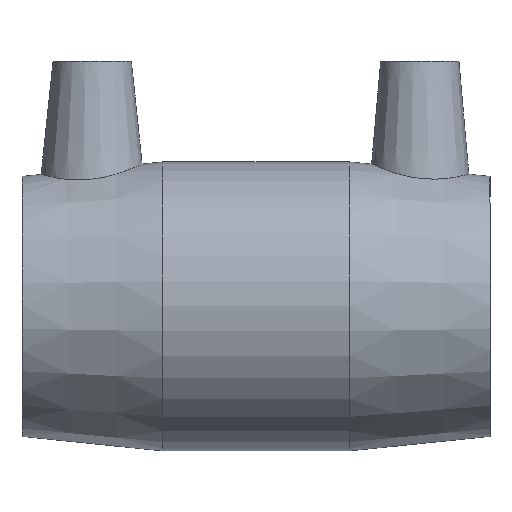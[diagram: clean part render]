
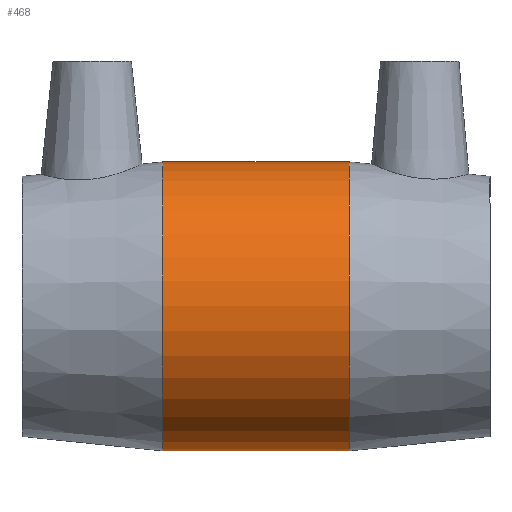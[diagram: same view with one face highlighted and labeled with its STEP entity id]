
A CAD part, top view. The second image highlights one B-rep face of the part: STEP entity #468.
In plain terms, the highlighted cylindrical face has radius 27.686 mm (diameter 55.372 mm), a full revolution.
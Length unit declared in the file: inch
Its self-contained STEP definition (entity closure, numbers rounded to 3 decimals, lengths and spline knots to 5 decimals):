
#44=LINE('',#869,#61);
#61=VECTOR('',#639,1.09);
#76=CYLINDRICAL_SURFACE('',#528,1.09);
#94=FACE_OUTER_BOUND('',#127,.T.);
#127=EDGE_LOOP('',(#350,#351,#352,#353,#354,#355));
#163=CIRCLE('',#529,1.09);
#164=CIRCLE('',#530,1.09);
#165=CIRCLE('',#531,1.09);
#166=CIRCLE('',#532,1.09);
#212=VERTEX_POINT('',#864);
#213=VERTEX_POINT('',#865);
#214=VERTEX_POINT('',#868);
#215=VERTEX_POINT('',#870);
#267=EDGE_CURVE('',#212,#213,#163,.T.);
#268=EDGE_CURVE('',#213,#212,#164,.T.);
#269=EDGE_CURVE('',#213,#214,#44,.T.);
#270=EDGE_CURVE('',#214,#215,#165,.T.);
#271=EDGE_CURVE('',#215,#214,#166,.T.);
#350=ORIENTED_EDGE('',*,*,#267,.F.);
#351=ORIENTED_EDGE('',*,*,#268,.F.);
#352=ORIENTED_EDGE('',*,*,#269,.T.);
#353=ORIENTED_EDGE('',*,*,#270,.T.);
#354=ORIENTED_EDGE('',*,*,#271,.T.);
#355=ORIENTED_EDGE('',*,*,#269,.F.);
#468=ADVANCED_FACE('',(#94),#76,.T.);
#528=AXIS2_PLACEMENT_3D('',#863,#633,#634);
#529=AXIS2_PLACEMENT_3D('',#866,#635,#636);
#530=AXIS2_PLACEMENT_3D('',#867,#637,#638);
#531=AXIS2_PLACEMENT_3D('',#871,#640,#641);
#532=AXIS2_PLACEMENT_3D('',#872,#642,#643);
#633=DIRECTION('center_axis',(1.,0.,0.));
#634=DIRECTION('ref_axis',(0.,1.,0.));
#635=DIRECTION('center_axis',(1.,0.,0.));
#636=DIRECTION('ref_axis',(0.,0.,-1.));
#637=DIRECTION('center_axis',(1.,0.,0.));
#638=DIRECTION('ref_axis',(0.,0.,-1.));
#639=DIRECTION('',(-1.,0.,0.));
#640=DIRECTION('center_axis',(1.,0.,0.));
#641=DIRECTION('ref_axis',(0.,0.,-1.));
#642=DIRECTION('center_axis',(1.,0.,0.));
#643=DIRECTION('ref_axis',(0.,0.,-1.));
#863=CARTESIAN_POINT('Origin',(0.37613,0.,0.));
#864=CARTESIAN_POINT('',(0.703,1.09,0.));
#865=CARTESIAN_POINT('',(0.703,-1.09,0.));
#866=CARTESIAN_POINT('Origin',(0.703,0.,0.));
#867=CARTESIAN_POINT('Origin',(0.703,0.,0.));
#868=CARTESIAN_POINT('',(-0.703,-1.09,0.));
#869=CARTESIAN_POINT('',(0.37613,-1.09,0.));
#870=CARTESIAN_POINT('',(-0.703,1.09,0.));
#871=CARTESIAN_POINT('Origin',(-0.703,0.,0.));
#872=CARTESIAN_POINT('Origin',(-0.703,0.,0.));
